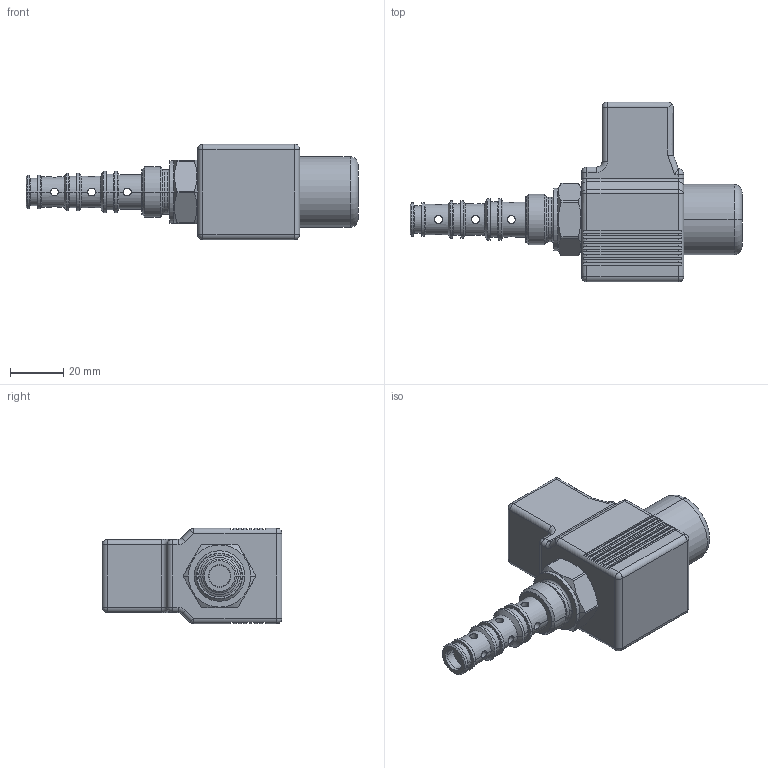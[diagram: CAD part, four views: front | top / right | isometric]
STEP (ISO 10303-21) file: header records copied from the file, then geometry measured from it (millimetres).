
FILE_DESCRIPTION((''),'2;1');
FILE_NAME('SD2E_A4_S','2011-03-14T',('tvatras'),(''),'PRO/ENGINEER BY PARAMETRIC TECHNOLOGY CORPORATION, 2010180','PRO/ENGINEER BY PARAMETRIC TECHNOLOGY CORPORATION, 2010180','');
FILE_SCHEMA(('CONFIG_CONTROL_DESIGN'));
Length unit declared in the file: millimetre
Products named in the file (1): SD2E_A4_S
Bounding box: 125.25 x 67.8 x 36 mm (x, y, z)
Volume: 93622 mm3; surface area: 20318.2 mm2
Topology: 1 solids, 5 shells, 269 faces, 652 edges, 377 vertices
Faces by surface type: cylinder 111, plane 94, cone 24, torus 24, sphere 14, extrusion 2
Entity records: 8305 total; most frequent: CARTESIAN_POINT 1969, DIRECTION 1398, ORIENTED_EDGE 1262, EDGE_CURVE 635, AXIS2_PLACEMENT_3D 549, VERTEX_POINT 375, VECTOR 300, LINE 298
